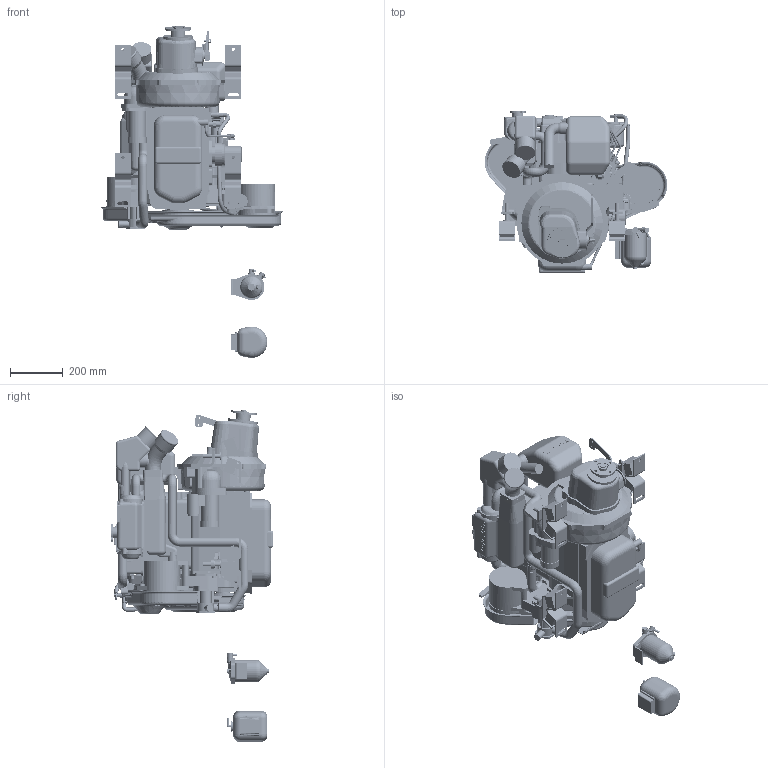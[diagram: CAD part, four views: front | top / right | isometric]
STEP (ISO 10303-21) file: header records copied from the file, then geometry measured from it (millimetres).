
FILE_DESCRIPTION(('CoCreate Modeling STEP Export'),'2;1');
FILE_NAME('3JH5E_KM35A.stp','2013-04-11T15:28:13',(''),(''),'CoCreate Modeling STEP processor for AP214 (Solid Model)','CoCreate Modeling 16.50A 01-Dec-2009 (C) Parametric Technology GmbH','');
FILE_SCHEMA(('AUTOMOTIVE_DESIGN { 1 0 10303 214 1 1 1 1 }'));
Length unit declared in the file: millimetre
Products named in the file (56): 3JH5E_028; 3JH5E_026; 3JH5E_024; 3JH5E_007; 3JH5E_009; 3JH5E_027; 3JH5E_031; 3JH5E_018; 3JH5E_032; 3JH5E_008; 3JH5E_003; 3JH5E_004; 3JH5E_014; 3JH5E_010; 3JH5E_015; 3JH5E_011; 3JH5E_033; 3JH5E_030; 3JH5E_012; 3JH5E_013; 3JH5E_023; 3JH5E_006; 3JH5E_019; 3JH5E_005; 3JH5E_002; 3JH5E_016; 3JH5E_001; 3JH5E_025; 3JH5E_020; 3JH5E_021; 3JH5E_022; 3JH5E_017; 3JH5E_029; Base; Mixing-elbow-type-2; Mixing-elbow-type-1; Mixing-elbow; 3JH5E_Engine_Gearbox; KM35A_JH5E_001; KMP35A_Gearbox-JH5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
Assembly tree (55 placements, depth 4):
  3JH5E_KM35A
    Center_of_gravity
      C.O.G._P5
      C.O.G._P6
      C.O.G._P4
      C.O.G._P3
      C.O.G._P2
      C.O.G._P1
    3JH5E_Engine_Options
      3JH5E-option_004
      3JH5E-option_001
      3JH5E-option_002
      3JH5E-option_003
      3JH5E-option_007
      3JH5E-option_006
      3JH5E-option_005
    KMP35A_Gearbox-JH5
      KM35A_JH5E_001
    3JH5E_Engine_Gearbox
      Mixing-elbow
        Mixing-elbow-type-1
        Mixing-elbow-type-2
      Base
        3JH5E_029
        3JH5E_017
        3JH5E_022
        3JH5E_021
        3JH5E_020
        3JH5E_025
        3JH5E_001
        3JH5E_016
        3JH5E_002
        3JH5E_005
        3JH5E_019
        3JH5E_006
        3JH5E_023
        3JH5E_013
        3JH5E_012
        3JH5E_030
        3JH5E_033
        3JH5E_011
        3JH5E_015
        3JH5E_010
        3JH5E_014
        3JH5E_004
        3JH5E_003
        3JH5E_008
        3JH5E_032
        3JH5E_018
        3JH5E_031
        3JH5E_027
        3JH5E_009
        3JH5E_007
        3JH5E_024
        3JH5E_026
        3JH5E_028
Bounding box: 695.91 x 618.6 x 1264.12 mm (x, y, z)
Volume: 81816249.8 mm3; surface area: 5783881.8 mm2
Topology: 49 solids, 49 shells, 5117 faces, 13740 edges, 8848 vertices
Faces by surface type: cylinder 2286, plane 2005, torus 436, cone 149, bspline 87, sphere 87, extrusion 37, revolution 30
Entity records: 157909 total; most frequent: CARTESIAN_POINT 37401, ORIENTED_EDGE 27380, DIRECTION 22682, EDGE_CURVE 13690, VERTEX_POINT 8848, AXIS2_PLACEMENT_3D 7884, VECTOR 6891, LINE 6854
